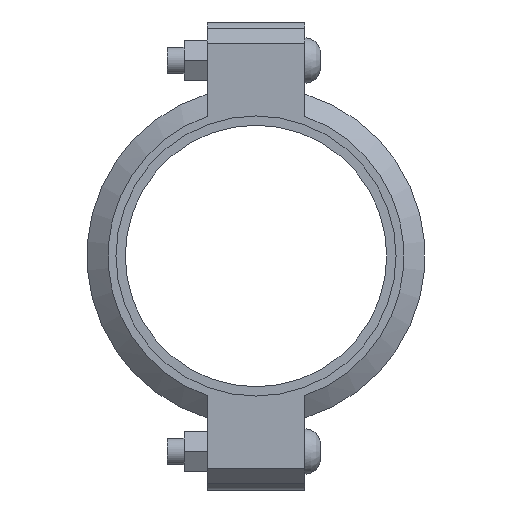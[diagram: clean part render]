
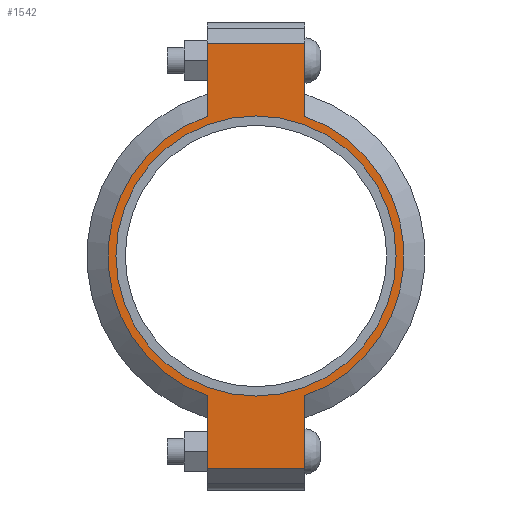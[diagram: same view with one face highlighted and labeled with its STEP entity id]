
A CAD part, left-side view. The second image highlights one B-rep face of the part: STEP entity #1542.
In plain terms, the highlighted planar face has unit normal (-1, 0, 0) as drawn and (0, 0, 1) by its records, which use the part's own axes.
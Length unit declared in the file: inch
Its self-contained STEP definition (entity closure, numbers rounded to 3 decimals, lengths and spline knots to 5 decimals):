
#166=LINE('',#2700,#259);
#174=LINE('',#2736,#267);
#181=LINE('',#2757,#274);
#190=LINE('',#2789,#283);
#191=LINE('',#2793,#284);
#192=LINE('',#2795,#285);
#259=VECTOR('',#2204,0.3937);
#267=VECTOR('',#2220,0.3937);
#274=VECTOR('',#2239,0.3937);
#283=VECTOR('',#2264,0.3937);
#284=VECTOR('',#2269,0.3937);
#285=VECTOR('',#2270,0.3937);
#341=FACE_BOUND('',#519,.T.);
#413=FACE_OUTER_BOUND('',#518,.T.);
#518=EDGE_LOOP('',(#1283,#1284,#1285,#1286,#1287,#1288,#1289,#1290));
#519=EDGE_LOOP('',(#1291));
#591=CIRCLE('',#1770,3.3125);
#617=CIRCLE('',#1829,3.5);
#618=CIRCLE('',#1830,3.5);
#683=VERTEX_POINT('',#2516);
#726=VERTEX_POINT('',#2697);
#727=VERTEX_POINT('',#2699);
#738=VERTEX_POINT('',#2731);
#739=VERTEX_POINT('',#2735);
#746=VERTEX_POINT('',#2754);
#747=VERTEX_POINT('',#2756);
#757=VERTEX_POINT('',#2792);
#758=VERTEX_POINT('',#2794);
#839=EDGE_CURVE('',#683,#683,#591,.T.);
#900=EDGE_CURVE('',#727,#726,#166,.T.);
#914=EDGE_CURVE('',#739,#738,#174,.T.);
#924=EDGE_CURVE('',#747,#746,#181,.T.);
#939=EDGE_CURVE('',#739,#726,#190,.T.);
#940=EDGE_CURVE('',#738,#747,#617,.T.);
#941=EDGE_CURVE('',#757,#746,#191,.T.);
#942=EDGE_CURVE('',#757,#758,#192,.T.);
#943=EDGE_CURVE('',#758,#727,#618,.T.);
#1283=ORIENTED_EDGE('',*,*,#939,.F.);
#1284=ORIENTED_EDGE('',*,*,#914,.T.);
#1285=ORIENTED_EDGE('',*,*,#940,.T.);
#1286=ORIENTED_EDGE('',*,*,#924,.T.);
#1287=ORIENTED_EDGE('',*,*,#941,.F.);
#1288=ORIENTED_EDGE('',*,*,#942,.T.);
#1289=ORIENTED_EDGE('',*,*,#943,.T.);
#1290=ORIENTED_EDGE('',*,*,#900,.T.);
#1291=ORIENTED_EDGE('',*,*,#839,.T.);
#1384=PLANE('',#1828);
#1542=ADVANCED_FACE('',(#413,#341),#1384,.T.);
#1770=AXIS2_PLACEMENT_3D('',#2518,#2080,#2081);
#1828=AXIS2_PLACEMENT_3D('',#2790,#2265,#2266);
#1829=AXIS2_PLACEMENT_3D('',#2791,#2267,#2268);
#1830=AXIS2_PLACEMENT_3D('',#2796,#2271,#2272);
#2080=DIRECTION('center_axis',(0.,0.,-1.));
#2081=DIRECTION('ref_axis',(1.,0.,0.));
#2204=DIRECTION('',(1.,0.,0.));
#2220=DIRECTION('',(-1.,0.,0.));
#2239=DIRECTION('',(-1.,0.,0.));
#2264=DIRECTION('',(0.,-1.,0.));
#2265=DIRECTION('center_axis',(0.,0.,1.));
#2266=DIRECTION('ref_axis',(-1.,0.,0.));
#2267=DIRECTION('center_axis',(0.,0.,1.));
#2268=DIRECTION('ref_axis',(1.,0.,0.));
#2269=DIRECTION('',(0.,1.,0.));
#2270=DIRECTION('',(1.,0.,0.));
#2271=DIRECTION('center_axis',(0.,0.,1.));
#2272=DIRECTION('ref_axis',(1.,0.,0.));
#2516=CARTESIAN_POINT('',(-3.3125,0.,1.065));
#2518=CARTESIAN_POINT('Origin',(0.,0.,1.065));
#2697=CARTESIAN_POINT('',(5.035,-1.156,1.065));
#2699=CARTESIAN_POINT('',(3.30358,-1.156,1.065));
#2700=CARTESIAN_POINT('',(5.535,-1.156,1.065));
#2731=CARTESIAN_POINT('',(3.30358,1.156,1.065));
#2735=CARTESIAN_POINT('',(5.035,1.156,1.065));
#2736=CARTESIAN_POINT('',(-5.535,1.156,1.065));
#2754=CARTESIAN_POINT('',(-5.035,1.156,1.065));
#2756=CARTESIAN_POINT('',(-3.30358,1.156,1.065));
#2757=CARTESIAN_POINT('',(-5.535,1.156,1.065));
#2789=CARTESIAN_POINT('',(5.035,-0.578,1.065));
#2790=CARTESIAN_POINT('Origin',(0.,0.,
1.065));
#2791=CARTESIAN_POINT('Origin',(0.,0.,1.065));
#2792=CARTESIAN_POINT('',(-5.035,-1.156,1.065));
#2793=CARTESIAN_POINT('',(-5.035,0.578,1.065));
#2794=CARTESIAN_POINT('',(-3.30358,-1.156,1.065));
#2795=CARTESIAN_POINT('',(5.535,-1.156,1.065));
#2796=CARTESIAN_POINT('Origin',(0.,0.,1.065));
